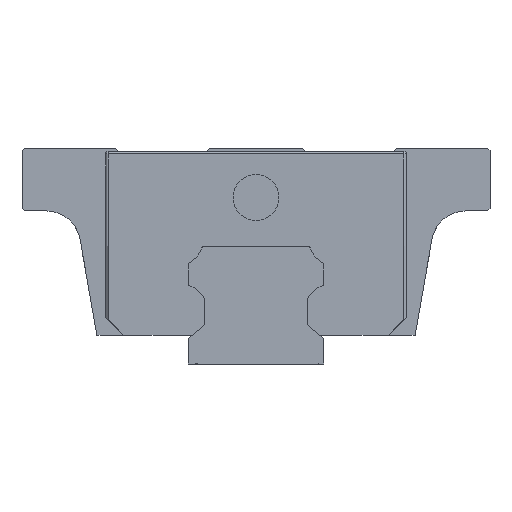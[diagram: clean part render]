
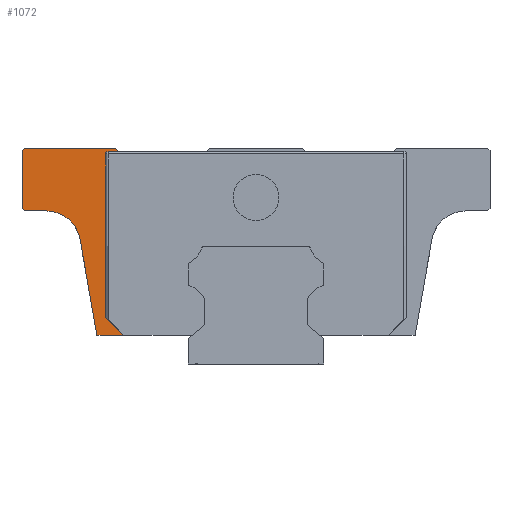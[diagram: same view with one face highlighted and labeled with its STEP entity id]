
A CAD part, left-side view. The second image highlights one B-rep face of the part: STEP entity #1072.
In plain terms, the highlighted planar face has unit normal (-1, 0, 0).
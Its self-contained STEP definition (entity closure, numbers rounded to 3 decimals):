
#9 = CARTESIAN_POINT ( 'NONE',  ( -11.45, 26., 24. ) ) ;
#20 = VERTEX_POINT ( 'NONE', #1930 ) ;
#37 = VERTEX_POINT ( 'NONE', #6044 ) ;
#217 = LINE ( 'NONE', #1761, #2798 ) ;
#226 = ORIENTED_EDGE ( 'NONE', *, *, #3314, .F. ) ;
#273 = VECTOR ( 'NONE', #4764, 1000. ) ;
#280 = CARTESIAN_POINT ( 'NONE',  ( -11.45, 16.442, 23.335 ) ) ;
#282 = ORIENTED_EDGE ( 'NONE', *, *, #2749, .T. ) ;
#309 = CARTESIAN_POINT ( 'NONE',  ( -11.45, 25.74, 24. ) ) ;
#323 = VERTEX_POINT ( 'NONE', #2828 ) ;
#339 = AXIS2_PLACEMENT_3D ( 'NONE', #4379, #1258, #1225 ) ;
#349 = EDGE_CURVE ( 'NONE', #2512, #37, #217, .T. ) ;
#473 = CARTESIAN_POINT ( 'NONE',  ( -11.45, 14.702, 3.2 ) ) ;
#502 = VECTOR ( 'NONE', #4892, 1000. ) ;
#647 = EDGE_CURVE ( 'NONE', #4773, #4481, #6454, .T. ) ;
#763 = DIRECTION ( 'NONE',  ( 0., 0., 1. ) ) ;
#790 = VECTOR ( 'NONE', #5696, 1000. ) ;
#870 = DIRECTION ( 'NONE',  ( 0., -0.707, -0.707 ) ) ;
#890 = CARTESIAN_POINT ( 'NONE',  ( -11.45, -18.027, 23.595 ) ) ;
#893 = VECTOR ( 'NONE', #3345, 1000. ) ;
#914 = PLANE ( 'NONE',  #1786 ) ;
#985 = VERTEX_POINT ( 'NONE', #2934 ) ;
#1072 = ADVANCED_FACE ( 'NONE', ( #5460 ), #914, .T. ) ;
#1211 = ORIENTED_EDGE ( 'NONE', *, *, #5887, .T. ) ;
#1225 = DIRECTION ( 'NONE',  ( 0., 0., 1. ) ) ;
#1244 = CARTESIAN_POINT ( 'NONE',  ( -11.45, 15.6, 24. ) ) ;
#1258 = DIRECTION ( 'NONE',  ( 1., 0., 0. ) ) ;
#1275 = DIRECTION ( 'NONE',  ( 0., 0., 1. ) ) ;
#1436 = CARTESIAN_POINT ( 'NONE',  ( -11.45, 15.26, 23.595 ) ) ;
#1440 = LINE ( 'NONE', #2225, #5882 ) ;
#1442 = CARTESIAN_POINT ( 'NONE',  ( -11.45, 16.442, 23.595 ) ) ;
#1625 = VERTEX_POINT ( 'NONE', #473 ) ;
#1662 = VERTEX_POINT ( 'NONE', #6073 ) ;
#1723 = DIRECTION ( 'NONE',  ( 0., 0.707, -0.707 ) ) ;
#1761 = CARTESIAN_POINT ( 'NONE',  ( -11.45, 2.676, -6.064 ) ) ;
#1786 = AXIS2_PLACEMENT_3D ( 'NONE', #5856, #3799, #1275 ) ;
#1879 = EDGE_CURVE ( 'NONE', #20, #6198, #4665, .T. ) ;
#1921 = CARTESIAN_POINT ( 'NONE',  ( -11.45, 15.6, 24. ) ) ;
#1930 = CARTESIAN_POINT ( 'NONE',  ( -11.45, 23.254, 17. ) ) ;
#2192 = DIRECTION ( 'NONE',  ( 0., 0., -1. ) ) ;
#2225 = CARTESIAN_POINT ( 'NONE',  ( -11.45, 16.702, 23.125 ) ) ;
#2273 = ORIENTED_EDGE ( 'NONE', *, *, #5663, .T. ) ;
#2370 = ORIENTED_EDGE ( 'NONE', *, *, #5585, .T. ) ;
#2386 = AXIS2_PLACEMENT_3D ( 'NONE', #280, #3449, #763 ) ;
#2512 = VERTEX_POINT ( 'NONE', #3778 ) ;
#2703 = LINE ( 'NONE', #1244, #790 ) ;
#2727 = ORIENTED_EDGE ( 'NONE', *, *, #4566, .T. ) ;
#2732 = DIRECTION ( 'NONE',  ( 0., 0.643, 0.766 ) ) ;
#2734 = CARTESIAN_POINT ( 'NONE',  ( -11.45, 17.674, 3.2 ) ) ;
#2749 = EDGE_CURVE ( 'NONE', #323, #4481, #4521, .T. ) ;
#2763 = LINE ( 'NONE', #2734, #273 ) ;
#2774 = VERTEX_POINT ( 'NONE', #309 ) ;
#2798 = VECTOR ( 'NONE', #870, 1000. ) ;
#2828 = CARTESIAN_POINT ( 'NONE',  ( -11.45, 16.702, 23.335 ) ) ;
#2934 = CARTESIAN_POINT ( 'NONE',  ( -11.45, 16.702, 5.2 ) ) ;
#3097 = EDGE_LOOP ( 'NONE', ( #3602, #2727, #2370, #1211, #4221, #4761, #3210, #5463, #5122, #2273, #3768, #226, #282 ) ) ;
#3210 = ORIENTED_EDGE ( 'NONE', *, *, #5991, .T. ) ;
#3314 = EDGE_CURVE ( 'NONE', #323, #985, #1440, .T. ) ;
#3345 = DIRECTION ( 'NONE',  ( 0., -0.174, -0.985 ) ) ;
#3428 = VERTEX_POINT ( 'NONE', #1921 ) ;
#3449 = DIRECTION ( 'NONE',  ( 1., 0., 0. ) ) ;
#3555 = CARTESIAN_POINT ( 'NONE',  ( -11.45, 16.702, 5.2 ) ) ;
#3560 = EDGE_CURVE ( 'NONE', #4005, #2512, #3612, .T. ) ;
#3602 = ORIENTED_EDGE ( 'NONE', *, *, #647, .F. ) ;
#3604 = CARTESIAN_POINT ( 'NONE',  ( -11.45, 26., 23.74 ) ) ;
#3612 = LINE ( 'NONE', #9, #3761 ) ;
#3761 = VECTOR ( 'NONE', #5139, 1000. ) ;
#3768 = ORIENTED_EDGE ( 'NONE', *, *, #6351, .F. ) ;
#3778 = CARTESIAN_POINT ( 'NONE',  ( -11.45, 26., 17.26 ) ) ;
#3799 = DIRECTION ( 'NONE',  ( -1., 0., 0. ) ) ;
#3846 = LINE ( 'NONE', #5868, #893 ) ;
#4005 = VERTEX_POINT ( 'NONE', #3604 ) ;
#4221 = ORIENTED_EDGE ( 'NONE', *, *, #3560, .T. ) ;
#4379 = CARTESIAN_POINT ( 'NONE',  ( -11.45, 23.254, 13.25 ) ) ;
#4481 = VERTEX_POINT ( 'NONE', #1442 ) ;
#4521 = CIRCLE ( 'NONE', #2386, 0.26 ) ;
#4566 = EDGE_CURVE ( 'NONE', #4773, #3428, #4733, .T. ) ;
#4589 = VECTOR ( 'NONE', #2732, 1000. ) ;
#4624 = LINE ( 'NONE', #3555, #502 ) ;
#4665 = CIRCLE ( 'NONE', #339, 3.75 ) ;
#4666 = DIRECTION ( 'NONE',  ( 0., -1., 0. ) ) ;
#4697 = CARTESIAN_POINT ( 'NONE',  ( -11.45, 15.233, 23.563 ) ) ;
#4733 = LINE ( 'NONE', #4697, #4589 ) ;
#4752 = CARTESIAN_POINT ( 'NONE',  ( -11.45, 19.976, 29.764 ) ) ;
#4761 = ORIENTED_EDGE ( 'NONE', *, *, #349, .T. ) ;
#4764 = DIRECTION ( 'NONE',  ( 0., -1., 0. ) ) ;
#4773 = VERTEX_POINT ( 'NONE', #1436 ) ;
#4892 = DIRECTION ( 'NONE',  ( 0., -0.707, -0.707 ) ) ;
#4942 = VECTOR ( 'NONE', #6394, 1000. ) ;
#5122 = ORIENTED_EDGE ( 'NONE', *, *, #5411, .T. ) ;
#5139 = DIRECTION ( 'NONE',  ( 0., 0., -1. ) ) ;
#5229 = CARTESIAN_POINT ( 'NONE',  ( -11.45, 26., 17. ) ) ;
#5331 = VECTOR ( 'NONE', #1723, 1000. ) ;
#5411 = EDGE_CURVE ( 'NONE', #6198, #1662, #3846, .T. ) ;
#5441 = VECTOR ( 'NONE', #4666, 1000. ) ;
#5460 = FACE_OUTER_BOUND ( 'NONE', #3097, .T. ) ;
#5463 = ORIENTED_EDGE ( 'NONE', *, *, #1879, .T. ) ;
#5585 = EDGE_CURVE ( 'NONE', #3428, #2774, #2703, .T. ) ;
#5662 = LINE ( 'NONE', #5229, #5441 ) ;
#5663 = EDGE_CURVE ( 'NONE', #1662, #1625, #2763, .T. ) ;
#5696 = DIRECTION ( 'NONE',  ( 0., 1., 0. ) ) ;
#5746 = LINE ( 'NONE', #4752, #5331 ) ;
#5856 = CARTESIAN_POINT ( 'NONE',  ( -11.45, -6.587, 3.2 ) ) ;
#5868 = CARTESIAN_POINT ( 'NONE',  ( -11.45, 20.108, 17. ) ) ;
#5882 = VECTOR ( 'NONE', #2192, 1000. ) ;
#5887 = EDGE_CURVE ( 'NONE', #2774, #4005, #5746, .T. ) ;
#5991 = EDGE_CURVE ( 'NONE', #37, #20, #5662, .T. ) ;
#6044 = CARTESIAN_POINT ( 'NONE',  ( -11.45, 25.74, 17. ) ) ;
#6073 = CARTESIAN_POINT ( 'NONE',  ( -11.45, 17.674, 3.2 ) ) ;
#6198 = VERTEX_POINT ( 'NONE', #6355 ) ;
#6351 = EDGE_CURVE ( 'NONE', #985, #1625, #4624, .T. ) ;
#6355 = CARTESIAN_POINT ( 'NONE',  ( -11.45, 19.561, 13.901 ) ) ;
#6394 = DIRECTION ( 'NONE',  ( 0., 1., 0. ) ) ;
#6454 = LINE ( 'NONE', #890, #4942 ) ;
